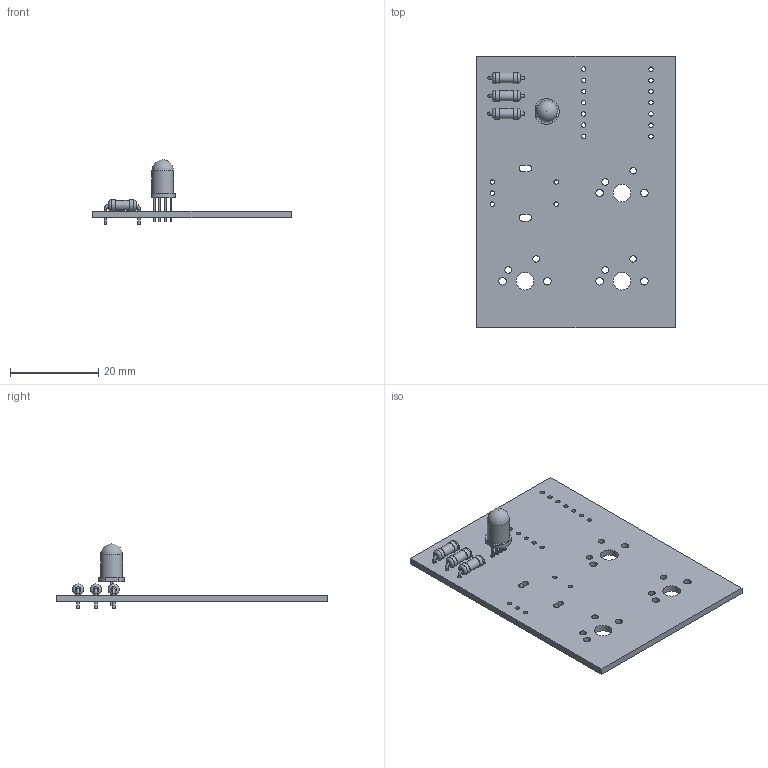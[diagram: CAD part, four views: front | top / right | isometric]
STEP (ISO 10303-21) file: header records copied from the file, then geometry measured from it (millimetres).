
FILE_DESCRIPTION(('KiCad electronic assembly'),'2;1');
FILE_NAME('Hackpad Kicad.step','2026-03-16T13:02:39',('Pcbnew'),('Kicad' ),'Open CASCADE STEP processor 7.9','KiCad to STEP converter', 'Unknown');
FILE_SCHEMA(('AUTOMOTIVE_DESIGN { 1 0 10303 214 1 1 1 1 }'));
Length unit declared in the file: millimetre
Products named in the file (4): Hackpad Kicad 1; R_Axial_DIN0207_L6.3mm_D2.5mm_P7.62mm_Horizontal; LED_D5.0mm-4_RGB; Hackpad Kicad_PCB
Assembly tree (5 placements, depth 2):
  Hackpad Kicad 1
    R_Axial_DIN0207_L6.3mm_D2.5mm_P7.62mm_Horizontal  x3
    LED_D5.0mm-4_RGB
    Hackpad Kicad_PCB
Bounding box: 45 x 61.5 x 14.6 mm (x, y, z)
Volume: 4293.4 mm3; surface area: 6394.7 mm2
Topology: 5 solids, 5 shells, 129 faces, 298 edges, 194 vertices
Faces by surface type: cylinder 65, plane 51, torus 12, sphere 1
Full cylindrical faces by diameter (mm): 0.6 x6, 0.8 x6, 0.9 x4, 1 x19, 1.5 x6, 1.7 x6, 2.25 x3, 2.5 x6, 4 x3, 5 x1
Entity records: 3924 total; most frequent: CARTESIAN_POINT 855, DIRECTION 577, ORIENTED_EDGE 502, EDGE_CURVE 251, AXIS2_PLACEMENT_3D 223, FACE_BOUND 200, EDGE_LOOP 200, VERTEX_POINT 167
